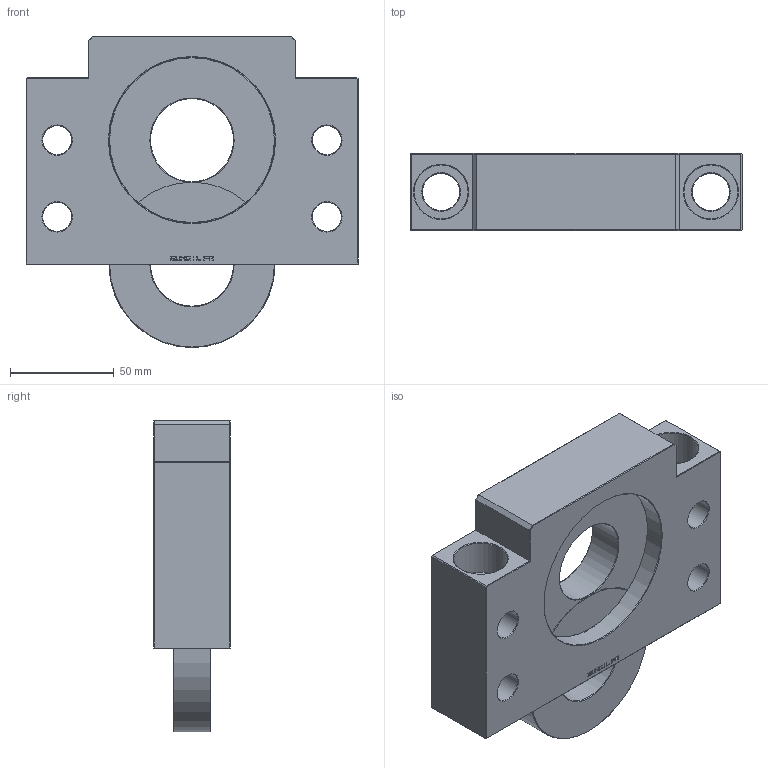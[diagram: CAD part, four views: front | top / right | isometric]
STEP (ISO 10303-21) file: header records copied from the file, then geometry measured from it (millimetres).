
FILE_DESCRIPTION( ( 'Unknown' ), '1' );
FILE_NAME( 'D:/3D/憮んお嶸棉/20060119/SBF TYPE/SBF40/SBF40(ASSM).stp', 'Unknown', ( 'Unknown' ), ( 'Unknown' ), 'XStep 1.0', 'Unknown', ' ' );
FILE_SCHEMA( ( 'CONFIG_CONTROL_DESIGN' ) );
Length unit declared in the file: millimetre
Products named in the file (3): Assem1; SBF40(housing); bearing(6208ZZ)
Bounding box: 160 x 37 x 150 mm (x, y, z)
Volume: 840530.1 mm3; surface area: 154237.8 mm2
Topology: 4 solids, 4 shells, 798 faces, 2162 edges, 1412 vertices
Faces by surface type: plane 424, cylinder 334, cone 40
Full cylindrical faces by diameter (mm): 14 x16, 18 x4, 26 x4, 40 x2, 80 x4
Entity records: 13268 total; most frequent: CARTESIAN_POINT 2914, DIRECTION 2180, ORIENTED_EDGE 2076, EDGE_CURVE 1038, AXIS2_PLACEMENT_3D 748, VERTEX_POINT 698, LINE 684, VECTOR 684
